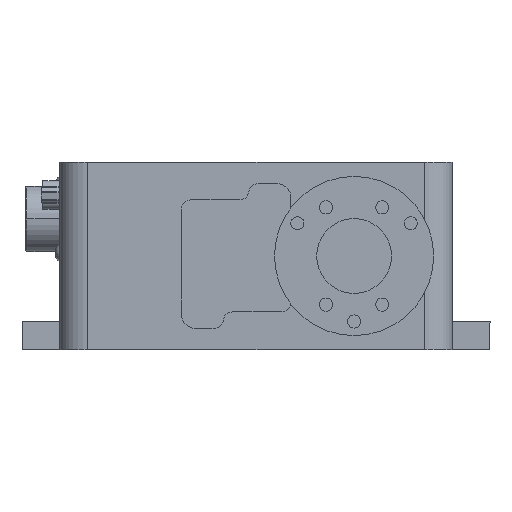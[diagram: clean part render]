
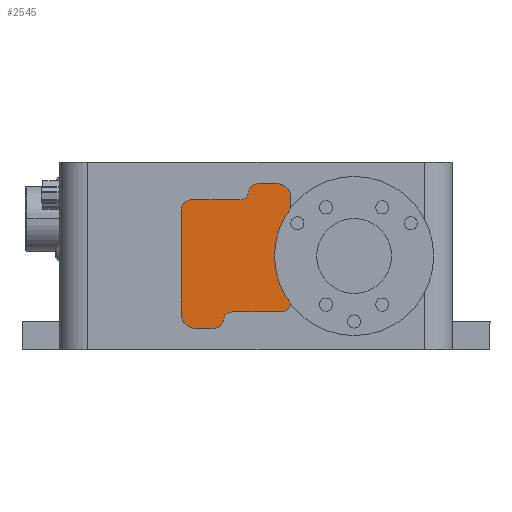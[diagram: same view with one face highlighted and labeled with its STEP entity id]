
A CAD part, front view. The second image highlights one B-rep face of the part: STEP entity #2545.
In plain terms, the highlighted planar face has unit normal (0, -1, 0).
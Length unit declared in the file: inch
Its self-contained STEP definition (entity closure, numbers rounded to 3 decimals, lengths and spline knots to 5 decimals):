
#117 = CARTESIAN_POINT ( 'NONE',  ( -3.935, 4.77984, -0.747 ) ) ;
#174 = DIRECTION ( 'NONE',  ( 1., 0., 0. ) ) ;
#458 = EDGE_CURVE ( 'NONE', #29482, #40909, #2168, .T. ) ;
#503 = DIRECTION ( 'NONE',  ( 0., -1., 0. ) ) ;
#616 = EDGE_CURVE ( 'NONE', #25308, #40966, #32119, .T. ) ;
#1243 = VECTOR ( 'NONE', #19978, 39.37008 ) ;
#1673 = CARTESIAN_POINT ( 'NONE',  ( -0.969, 4.77984, -0.622 ) ) ;
#2013 = DIRECTION ( 'NONE',  ( 0., -1., 0. ) ) ;
#2020 = CARTESIAN_POINT ( 'NONE',  ( -1.74603, 4.77984, -0.856 ) ) ;
#2168 = LINE ( 'NONE', #117, #27266 ) ;
#2305 = LINE ( 'NONE', #31071, #35563 ) ;
#2545 = ADVANCED_FACE ( 'NONE', ( #19997 ), #10564, .T. ) ;
#3084 = CARTESIAN_POINT ( 'NONE',  ( -3.935, 4.77984, 0.967 ) ) ;
#3732 = EDGE_CURVE ( 'NONE', #34763, #29777, #4076, .T. ) ;
#4013 = DIRECTION ( 'NONE',  ( 0., 0., -1. ) ) ;
#4076 = LINE ( 'NONE', #36519, #15521 ) ;
#4889 = EDGE_LOOP ( 'NONE', ( #16505, #28798, #43224, #9555, #40795, #8022, #27851, #21727, #10439, #38017, #5302, #34658, #23794, #45142 ) ) ;
#5302 = ORIENTED_EDGE ( 'NONE', *, *, #26369, .T. ) ;
#5351 = CARTESIAN_POINT ( 'NONE',  ( -1.282, 4.77984, 0.967 ) ) ;
#6339 = CARTESIAN_POINT ( 'NONE',  ( -2.183, 4.77984, 0.748 ) ) ;
#6382 = CARTESIAN_POINT ( 'NONE',  ( -3.935, 4.77984, 0.748 ) ) ;
#6805 = EDGE_CURVE ( 'NONE', #29482, #13144, #7477, .T. ) ;
#7477 = CIRCLE ( 'NONE', #36989, 0.125 ) ;
#7994 = CARTESIAN_POINT ( 'NONE',  ( -1.62206, 4.77984, -0.747 ) ) ;
#8022 = ORIENTED_EDGE ( 'NONE', *, *, #458, .F. ) ;
#8255 = DIRECTION ( 'NONE',  ( 0., 0., -1. ) ) ;
#8847 = DIRECTION ( 'NONE',  ( 0., 0., -1. ) ) ;
#9360 = AXIS2_PLACEMENT_3D ( 'NONE', #23856, #27365, #27068 ) ;
#9555 = ORIENTED_EDGE ( 'NONE', *, *, #28165, .T. ) ;
#9733 = VERTEX_POINT ( 'NONE', #25785 ) ;
#10439 = ORIENTED_EDGE ( 'NONE', *, *, #41901, .T. ) ;
#10564 = PLANE ( 'NONE',  #13209 ) ;
#10651 = CARTESIAN_POINT ( 'NONE',  ( -2.308, 4.77984, 0.623 ) ) ;
#12252 = CARTESIAN_POINT ( 'NONE',  ( -1.033, 4.77984, 0.778 ) ) ;
#12393 = DIRECTION ( 'NONE',  ( 0., 0., -1. ) ) ;
#13144 = VERTEX_POINT ( 'NONE', #43586 ) ;
#13209 = AXIS2_PLACEMENT_3D ( 'NONE', #28248, #503, #4013 ) ;
#13687 = AXIS2_PLACEMENT_3D ( 'NONE', #32588, #21980, #8255 ) ;
#13747 = LINE ( 'NONE', #3084, #23014 ) ;
#13774 = CIRCLE ( 'NONE', #36159, 0.189 ) ;
#14091 = EDGE_CURVE ( 'NONE', #20495, #29777, #19259, .T. ) ;
#14476 = AXIS2_PLACEMENT_3D ( 'NONE', #32243, #35625, #35468 ) ;
#14927 = EDGE_CURVE ( 'NONE', #34580, #9733, #13747, .T. ) ;
#15521 = VECTOR ( 'NONE', #39451, 39.37008 ) ;
#16424 = CARTESIAN_POINT ( 'NONE',  ( -1.87, 4.77984, -0.84 ) ) ;
#16505 = ORIENTED_EDGE ( 'NONE', *, *, #3732, .F. ) ;
#18217 = AXIS2_PLACEMENT_3D ( 'NONE', #23875, #27379, #33907 ) ;
#18457 = VERTEX_POINT ( 'NONE', #2020 ) ;
#19259 = CIRCLE ( 'NONE', #13687, 0.125 ) ;
#19624 = CARTESIAN_POINT ( 'NONE',  ( -1.87, 4.77984, -0.965 ) ) ;
#19978 = DIRECTION ( 'NONE',  ( -1., 0., 0. ) ) ;
#19997 = FACE_OUTER_BOUND ( 'NONE', #4889, .T. ) ;
#20495 = VERTEX_POINT ( 'NONE', #6339 ) ;
#21184 = CIRCLE ( 'NONE', #35531, 0.125 ) ;
#21727 = ORIENTED_EDGE ( 'NONE', *, *, #32530, .F. ) ;
#21980 = DIRECTION ( 'NONE',  ( 0., -1., 0. ) ) ;
#22498 = LINE ( 'NONE', #30766, #1243 ) ;
#22774 = VERTEX_POINT ( 'NONE', #19624 ) ;
#23014 = VECTOR ( 'NONE', #174, 39.37008 ) ;
#23411 = DIRECTION ( 'NONE',  ( 0., -1., 0. ) ) ;
#23614 = AXIS2_PLACEMENT_3D ( 'NONE', #40729, #23411, #26904 ) ;
#23794 = ORIENTED_EDGE ( 'NONE', *, *, #28208, .F. ) ;
#23856 = CARTESIAN_POINT ( 'NONE',  ( -1.62206, 4.77984, -0.872 ) ) ;
#23875 = CARTESIAN_POINT ( 'NONE',  ( -2.119, 4.77984, -0.776 ) ) ;
#25032 = EDGE_CURVE ( 'NONE', #34763, #37434, #40429, .T. ) ;
#25308 = VERTEX_POINT ( 'NONE', #34248 ) ;
#25785 = CARTESIAN_POINT ( 'NONE',  ( -1.033, 4.77984, 0.967 ) ) ;
#26369 = EDGE_CURVE ( 'NONE', #34580, #40966, #43578, .T. ) ;
#26904 = DIRECTION ( 'NONE',  ( 0., 0., -1. ) ) ;
#27068 = DIRECTION ( 'NONE',  ( 0., 0., -1. ) ) ;
#27163 = VECTOR ( 'NONE', #27264, 39.37008 ) ;
#27264 = DIRECTION ( 'NONE',  ( 1., 0., 0. ) ) ;
#27266 = VECTOR ( 'NONE', #34528, 39.37008 ) ;
#27361 = CARTESIAN_POINT ( 'NONE',  ( -0.844, 4.77984, 0.778 ) ) ;
#27365 = DIRECTION ( 'NONE',  ( 0., -1., 0. ) ) ;
#27379 = DIRECTION ( 'NONE',  ( 0., -1., 0. ) ) ;
#27851 = ORIENTED_EDGE ( 'NONE', *, *, #6805, .T. ) ;
#28165 = EDGE_CURVE ( 'NONE', #22774, #18457, #21184, .T. ) ;
#28208 = EDGE_CURVE ( 'NONE', #20495, #25308, #29338, .T. ) ;
#28248 = CARTESIAN_POINT ( 'NONE',  ( -3.935, 4.77984, -1.25 ) ) ;
#28635 = VERTEX_POINT ( 'NONE', #27361 ) ;
#28798 = ORIENTED_EDGE ( 'NONE', *, *, #25032, .T. ) ;
#29338 = LINE ( 'NONE', #6382, #27163 ) ;
#29482 = VERTEX_POINT ( 'NONE', #39904 ) ;
#29777 = VERTEX_POINT ( 'NONE', #10651 ) ;
#29857 = CARTESIAN_POINT ( 'NONE',  ( -2.119, 4.77984, -0.965 ) ) ;
#30766 = CARTESIAN_POINT ( 'NONE',  ( -3.935, 4.77984, -0.965 ) ) ;
#31071 = CARTESIAN_POINT ( 'NONE',  ( -0.844, 4.77984, -1.25 ) ) ;
#32118 = CARTESIAN_POINT ( 'NONE',  ( -2.308, 4.77984, -0.776 ) ) ;
#32119 = CIRCLE ( 'NONE', #23614, 0.125 ) ;
#32243 = CARTESIAN_POINT ( 'NONE',  ( -1.282, 4.77984, 0.842 ) ) ;
#32427 = EDGE_CURVE ( 'NONE', #22774, #37434, #22498, .T. ) ;
#32530 = EDGE_CURVE ( 'NONE', #28635, #13144, #2305, .T. ) ;
#32588 = CARTESIAN_POINT ( 'NONE',  ( -2.183, 4.77984, 0.623 ) ) ;
#32792 = CIRCLE ( 'NONE', #9360, 0.125 ) ;
#33203 = DIRECTION ( 'NONE',  ( 0., -1., 0. ) ) ;
#33907 = DIRECTION ( 'NONE',  ( 0., 0., -1. ) ) ;
#34079 = DIRECTION ( 'NONE',  ( 0., 0., -1. ) ) ;
#34248 = CARTESIAN_POINT ( 'NONE',  ( -1.53007, 4.77984, 0.748 ) ) ;
#34528 = DIRECTION ( 'NONE',  ( -1., 0., 0. ) ) ;
#34580 = VERTEX_POINT ( 'NONE', #5351 ) ;
#34658 = ORIENTED_EDGE ( 'NONE', *, *, #616, .F. ) ;
#34763 = VERTEX_POINT ( 'NONE', #32118 ) ;
#35468 = DIRECTION ( 'NONE',  ( 0., 0., -1. ) ) ;
#35531 = AXIS2_PLACEMENT_3D ( 'NONE', #16424, #43954, #34079 ) ;
#35563 = VECTOR ( 'NONE', #41258, 39.37008 ) ;
#35625 = DIRECTION ( 'NONE',  ( 0., -1., 0. ) ) ;
#36159 = AXIS2_PLACEMENT_3D ( 'NONE', #12252, #2013, #12393 ) ;
#36269 = CARTESIAN_POINT ( 'NONE',  ( -1.40604, 4.77984, 0.8575 ) ) ;
#36519 = CARTESIAN_POINT ( 'NONE',  ( -2.308, 4.77984, -1.25 ) ) ;
#36989 = AXIS2_PLACEMENT_3D ( 'NONE', #1673, #33203, #8847 ) ;
#37434 = VERTEX_POINT ( 'NONE', #29857 ) ;
#38017 = ORIENTED_EDGE ( 'NONE', *, *, #14927, .F. ) ;
#39451 = DIRECTION ( 'NONE',  ( 0., 0., 1. ) ) ;
#39904 = CARTESIAN_POINT ( 'NONE',  ( -0.969, 4.77984, -0.747 ) ) ;
#40429 = CIRCLE ( 'NONE', #18217, 0.189 ) ;
#40729 = CARTESIAN_POINT ( 'NONE',  ( -1.53007, 4.77984, 0.873 ) ) ;
#40795 = ORIENTED_EDGE ( 'NONE', *, *, #42424, .F. ) ;
#40909 = VERTEX_POINT ( 'NONE', #7994 ) ;
#40966 = VERTEX_POINT ( 'NONE', #36269 ) ;
#41258 = DIRECTION ( 'NONE',  ( 0., 0., -1. ) ) ;
#41901 = EDGE_CURVE ( 'NONE', #28635, #9733, #13774, .T. ) ;
#42424 = EDGE_CURVE ( 'NONE', #40909, #18457, #32792, .T. ) ;
#43224 = ORIENTED_EDGE ( 'NONE', *, *, #32427, .F. ) ;
#43578 = CIRCLE ( 'NONE', #14476, 0.125 ) ;
#43586 = CARTESIAN_POINT ( 'NONE',  ( -0.844, 4.77984, -0.622 ) ) ;
#43954 = DIRECTION ( 'NONE',  ( 0., -1., 0. ) ) ;
#45142 = ORIENTED_EDGE ( 'NONE', *, *, #14091, .T. ) ;
